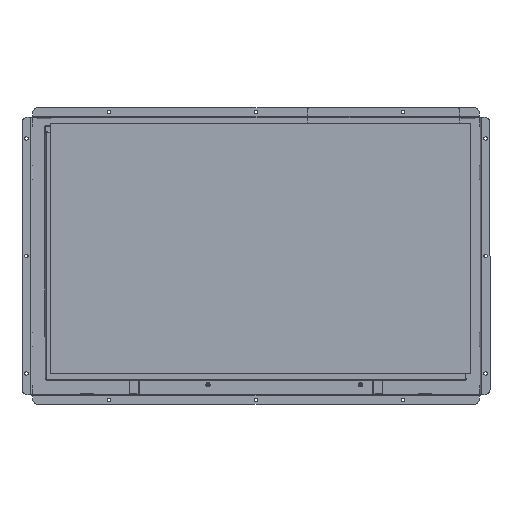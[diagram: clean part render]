
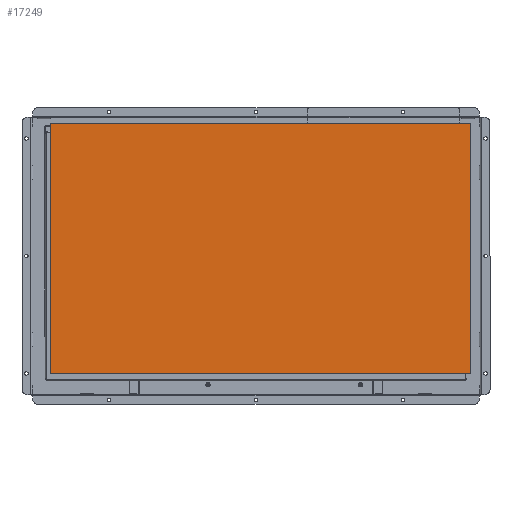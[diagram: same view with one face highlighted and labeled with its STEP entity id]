
A CAD part, top view. The second image highlights one B-rep face of the part: STEP entity #17249.
In plain terms, the highlighted planar face has unit normal (0, 0, 1).
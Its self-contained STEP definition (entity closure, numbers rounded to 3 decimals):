
#2307 = EDGE_CURVE ( 'NONE', #45635, #28519, #4487, .T. ) ;
#2521 = LINE ( 'NONE', #19025, #44986 ) ;
#4487 = LINE ( 'NONE', #21887, #59317 ) ;
#5290 = DIRECTION ( 'NONE',  ( -1., 0., 0. ) ) ;
#7716 = CARTESIAN_POINT ( 'NONE',  ( -210.05, -120.35, 3.15 ) ) ;
#10075 = ORIENTED_EDGE ( 'NONE', *, *, #2307, .T. ) ;
#10720 = CARTESIAN_POINT ( 'NONE',  ( 218.95, 135.25, 3.15 ) ) ;
#17249 = ADVANCED_FACE ( 'NONE', ( #59525 ), #46555, .T. ) ;
#19025 = CARTESIAN_POINT ( 'NONE',  ( 218.95, -120.35, 3.15 ) ) ;
#20440 = CARTESIAN_POINT ( 'NONE',  ( 218.95, 135.25, 3.15 ) ) ;
#21887 = CARTESIAN_POINT ( 'NONE',  ( 218.95, -120.35, 3.15 ) ) ;
#22403 = DIRECTION ( 'NONE',  ( 1., 0., 0. ) ) ;
#23069 = ORIENTED_EDGE ( 'NONE', *, *, #35695, .T. ) ;
#28519 = VERTEX_POINT ( 'NONE', #52971 ) ;
#28558 = EDGE_CURVE ( 'NONE', #37315, #40360, #50147, .T. ) ;
#29536 = EDGE_LOOP ( 'NONE', ( #23069, #50151, #38350, #10075 ) ) ;
#31287 = CARTESIAN_POINT ( 'NONE',  ( -210.05, 135.25, 3.15 ) ) ;
#32548 = CARTESIAN_POINT ( 'NONE',  ( -210.05, -120.35, 3.15 ) ) ;
#35041 = DIRECTION ( 'NONE',  ( 0., 1., 0. ) ) ;
#35695 = EDGE_CURVE ( 'NONE', #28519, #37315, #2521, .T. ) ;
#36094 = VECTOR ( 'NONE', #5290, 1000. ) ;
#37315 = VERTEX_POINT ( 'NONE', #20440 ) ;
#38350 = ORIENTED_EDGE ( 'NONE', *, *, #64347, .T. ) ;
#39254 = VECTOR ( 'NONE', #48492, 1000. ) ;
#39699 = AXIS2_PLACEMENT_3D ( 'NONE', #46340, #46274, #46194 ) ;
#40360 = VERTEX_POINT ( 'NONE', #31287 ) ;
#44986 = VECTOR ( 'NONE', #35041, 1000. ) ;
#45635 = VERTEX_POINT ( 'NONE', #7716 ) ;
#46194 = DIRECTION ( 'NONE',  ( -1., 0., 0. ) ) ;
#46274 = DIRECTION ( 'NONE',  ( 0., 0., 1. ) ) ;
#46340 = CARTESIAN_POINT ( 'NONE',  ( 218.95, 135.25, 3.15 ) ) ;
#46555 = PLANE ( 'NONE',  #39699 ) ;
#48492 = DIRECTION ( 'NONE',  ( 0., -1., 0. ) ) ;
#50147 = LINE ( 'NONE', #10720, #36094 ) ;
#50151 = ORIENTED_EDGE ( 'NONE', *, *, #28558, .T. ) ;
#52971 = CARTESIAN_POINT ( 'NONE',  ( 218.95, -120.35, 3.15 ) ) ;
#53333 = LINE ( 'NONE', #32548, #39254 ) ;
#59317 = VECTOR ( 'NONE', #22403, 1000. ) ;
#59525 = FACE_OUTER_BOUND ( 'NONE', #29536, .T. ) ;
#64347 = EDGE_CURVE ( 'NONE', #40360, #45635, #53333, .T. ) ;
